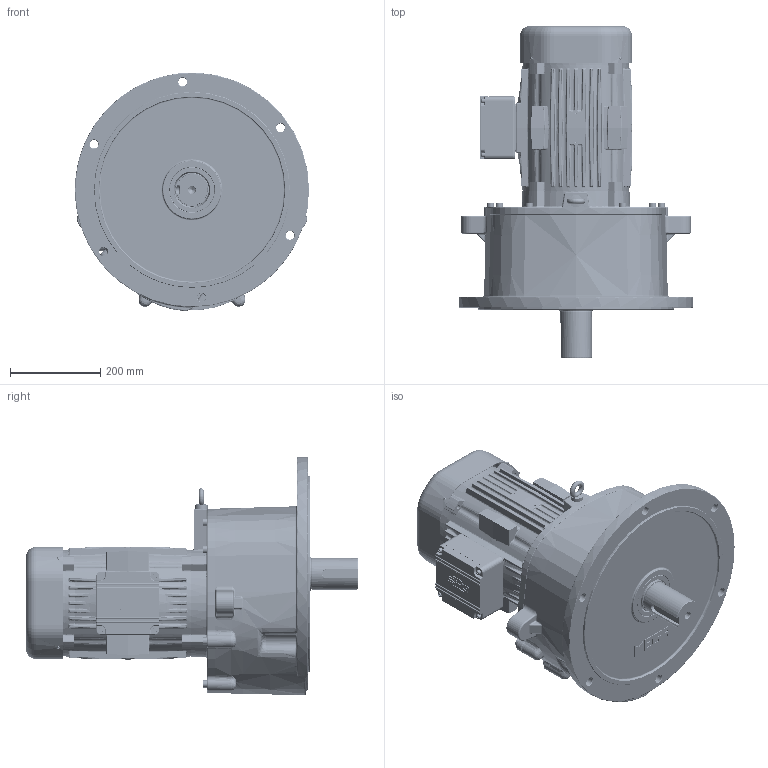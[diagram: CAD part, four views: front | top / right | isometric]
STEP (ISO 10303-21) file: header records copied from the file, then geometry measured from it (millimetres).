
FILE_DESCRIPTION(/* description */ (''),/* implementation_level */ '2;1');
FILE_NAME(/* name */ 'Z:\동력 3D 파일\PMK270_7.5kW_3D.stp',/* time_stamp */ '2021-12-01T15:39:02+09:00',/* author */ ('jaebok'),/* organization */ (''),/* preprocessor_version */ 'ST-DEVELOPER v18.1',/* originating_system */ 'Autodesk Inventor 2022',/* authorisation */ '');
FILE_SCHEMA (('AUTOMOTIVE_DESIGN { 1 0 10303 214 3 1 1 }'));
Products named in the file (1): 부품30
Bounding box: 519.84 x 737 x 529.84 mm (x, y, z)
Volume: 18921531.5 mm3; surface area: 2698266.9 mm2
Topology: 11 solids, 22 shells, 5133 faces, 12631 edges, 7500 vertices
Faces by surface type: bspline 1639, plane 1296, cylinder 1260, torus 419, sphere 290, cone 229
Full cylindrical faces by diameter (mm): 3.242 x4, 4.134 x4, 4.917 x9, 5 x16, 6 x9, 6.5 x8, 6.647 x9, 7 x4, 8 x4, 9.5 x4, 10 x17, 10.106 x2, 12 x9, 13.2 x1, 13.835 x9, 15 x1, 16 x9, 17 x8, 19 x6, 20 x1, 28 x1, 32 x1, 34 x2, 50 x1, 55 x1, 60 x2, 62 x1, 70 x1, 72 x1, 75 x3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
Entity records: 203544 total; most frequent: CARTESIAN_POINT 87859, ORIENTED_EDGE 24780, DIRECTION 20586, EDGE_CURVE 12390, AXIS2_PLACEMENT_3D 8093, VERTEX_POINT 7502, EDGE_LOOP 5454, FACE_OUTER_BOUND 5133
